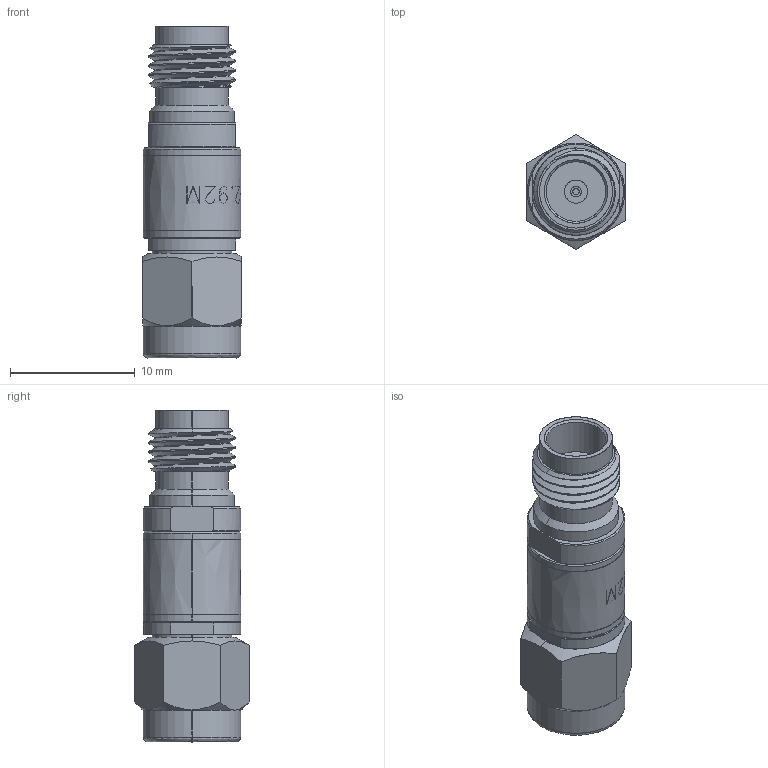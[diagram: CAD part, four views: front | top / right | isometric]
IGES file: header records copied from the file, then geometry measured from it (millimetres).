
Start section: SolidWorks IGES file using analytic representation for surfaces
Global section: file name: C:\Users\sculpepper\Desktop\2234000K001-833-C\2234000K001-833-Cigs.IGS; native system: SolidWorks 2019; preprocessor: SolidWorks 2019; author: sculpepper; date: 201029.155350; units: inch
Bounding box: 7.92 x 9.15 x 26.58 mm (x, y, z)
Surface area: 1292.7 mm2 (no closed solid volume)
Topology: 0 solids, 0 shells, 417 faces, 4300 edges, 4298 vertices
Faces by surface type: bspline 296, revolution 121
